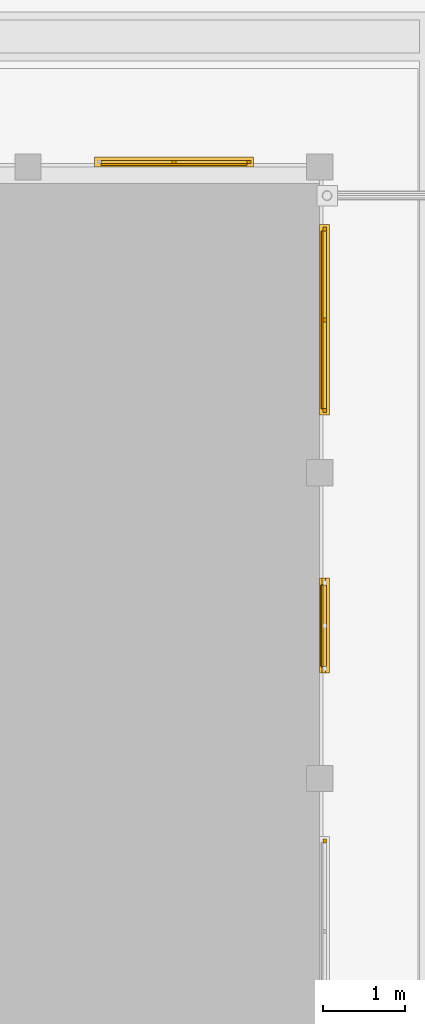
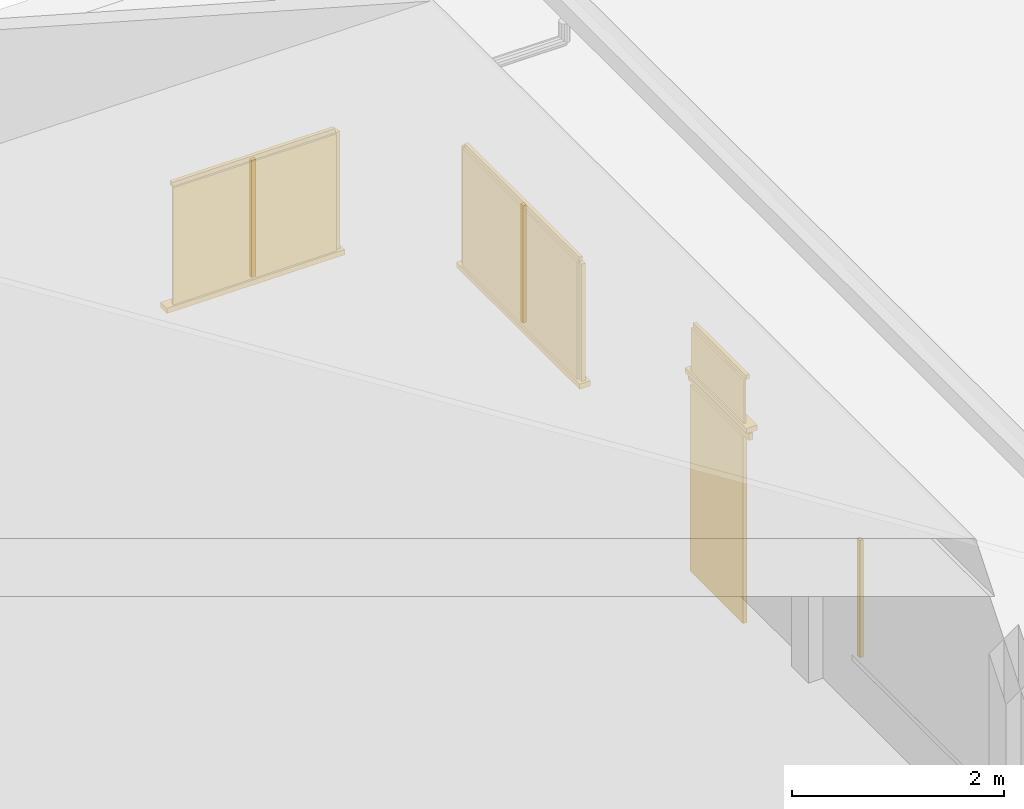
# One storey, part 51 of 177: 15 windows, 2 doors.
"""IFC4 building model written with IfcOpenShell, lengths in metres."""

import ifcopenshell
import ifcopenshell.guid

model = None  # the IFC model being written
_history = None  # IfcOwnerHistory: only IFC2X3 demands one
_inside = {}  # id of a spatial element -> (the spatial element, [elements in it])
_under = {}  # id of a project, library or spatial element -> (it, [spatial elements below it])
_declared = {}  # id of a project -> (the project, [libraries it declares])
_typed = {}  # id of a type object -> (the type object, [elements of that type])
_made_of = {}  # id of a material, layer set ... -> (it, [elements and type objects made of it])


def new_model(schema):
    """Start an empty IFC model of exactly this schema.

    Asked for "IFC4X3", IfcOpenShell would pick the latest addendum, in which some entities
    have other attributes; the version numbers below select the first issue.
    IFC2X3 requires an IfcOwnerHistory on every rooted entity: one is made here for all.
    """
    global model, _history
    if schema == "IFC4X3":
        model = ifcopenshell.file(schema_version=(4, 3, 0, 0))
    else:
        model = ifcopenshell.file(schema=schema)
    _inside.clear()
    _under.clear()
    _declared.clear()
    _typed.clear()
    _made_of.clear()
    _history = None
    if model.schema == "IFC2X3":
        org = make("IfcOrganization", Name="unknown")
        user = make(
            "IfcPersonAndOrganization",
            ThePerson=make("IfcPerson", FamilyName="unknown"),
            TheOrganization=org,
        )
        app = make(
            "IfcApplication",
            ApplicationDeveloper=org,
            Version="unknown",
            ApplicationFullName="unknown",
            ApplicationIdentifier="unknown",
        )
        _history = make(
            "IfcOwnerHistory",
            OwningUser=user,
            OwningApplication=app,
            ChangeAction="ADDED",
            CreationDate=0,
        )
    return model


def make(cls, **values):
    """One entity of the class cls with the attributes given. An attribute that is None is left unset."""
    return model.create_entity(
        cls, **{name: value for name, value in values.items() if value is not None}
    )


def rooted(cls, **values):
    """An entity with a GlobalId (a new one), such as an element, a storey or a relation."""
    return make(cls, GlobalId=ifcopenshell.guid.new(), OwnerHistory=_history, **values)


def si_unit(unit_type, name, prefix=None):
    """IfcSIUnit, for example si_unit("LENGTHUNIT", "METRE", prefix="MILLI")."""
    return make("IfcSIUnit", UnitType=unit_type, Prefix=prefix, Name=name)


def assignment(units):
    """IfcUnitAssignment: the units of a project."""
    return None if units is None else make("IfcUnitAssignment", Units=units)


def point(xyz):
    """IfcCartesianPoint."""
    return None if xyz is None else make("IfcCartesianPoint", Coordinates=xyz)


def direction(xyz):
    """IfcDirection."""
    return None if xyz is None else make("IfcDirection", DirectionRatios=xyz)


def frame(location, z_axis=None, x_axis=None):
    """IfcAxis2Placement3D, a coordinate frame: its origin and axes. An axis left out is left unset."""
    return make(
        "IfcAxis2Placement3D",
        Location=point(location),
        Axis=direction(z_axis),
        RefDirection=direction(x_axis),
    )


def origin():
    """The frame at (0, 0, 0) with its axes left unset."""
    return frame((0.0, 0.0, 0.0))


def origin_with_axes():
    """The frame at (0, 0, 0) with the z axis (0, 0, 1) and the x axis (1, 0, 0) written out."""
    return frame((0.0, 0.0, 0.0), z_axis=(0.0, 0.0, 1.0), x_axis=(1.0, 0.0, 0.0))


def place(relative_to, where):
    """IfcLocalPlacement: puts the frame where relative to a parent placement (None: the world)."""
    return make(
        "IfcLocalPlacement", PlacementRelTo=relative_to, RelativePlacement=where
    )


def context(
    kind, dimensions, precision=None, world=None, true_north=None, identifier=None
):
    """IfcGeometricRepresentationContext, for example the 3D "Model" context."""
    return make(
        "IfcGeometricRepresentationContext",
        ContextIdentifier=identifier,
        ContextType=kind,
        CoordinateSpaceDimension=dimensions,
        Precision=precision,
        WorldCoordinateSystem=world,
        TrueNorth=true_north,
    )


def subcontext(parent, identifier, kind, view, scale=None):
    """IfcGeometricRepresentationSubContext, for example "Body" below "Model"."""
    return make(
        "IfcGeometricRepresentationSubContext",
        ContextIdentifier=identifier,
        ContextType=kind,
        ParentContext=parent,
        TargetScale=scale,
        TargetView=view,
    )


def project(units=None, contexts=None):
    """IfcProject with its units and contexts."""
    return rooted(
        "IfcProject",
        Name="project",
        RepresentationContexts=contexts,
        UnitsInContext=assignment(units),
    )


def spatial(cls, under=None, at=None, **own):
    """A site, building, storey or space (cls), placed at a placement, below another one or the project."""
    s = rooted(cls, ObjectPlacement=at, **own)
    if under is not None:
        _under.setdefault(under.id(), (under, []))[1].append(s)
    return s


def point_list(points):
    """IfcCartesianPointList2D or 3D."""
    cls = (
        "IfcCartesianPointList2D" if len(points[0]) == 2 else "IfcCartesianPointList3D"
    )
    return make(cls, CoordList=points)


def triangles(points, corners, closed=None, point_numbers=None):
    """IfcTriangulatedFaceSet: each triangle names its three corners, points numbered from 1."""
    return make(
        "IfcTriangulatedFaceSet",
        Coordinates=point_list(points),
        Closed=closed,
        CoordIndex=corners,
        PnIndex=point_numbers,
    )


def shape(context_of_items, identifier, shape_type, items):
    """IfcShapeRepresentation: the items that make up one representation, for example the "Body"."""
    return make(
        "IfcShapeRepresentation",
        ContextOfItems=context_of_items,
        RepresentationIdentifier=identifier,
        RepresentationType=shape_type,
        Items=items,
    )


def made_of(thing, what):
    """Note that an element or type object is made of a material, layer set ...; save() writes the relation."""
    if what is not None:
        _made_of.setdefault(what.id(), (what, []))[1].append(thing)
    return thing


def element(
    cls,
    number,
    at=None,
    inside=None,
    cuts=None,
    type_object=None,
    material=None,
    context=None,
    identifier="Body",
    shape_type=None,
    held_by="IfcProductDefinitionShape",
    body=None,
    shapes=None,
    **own,
):
    """One element of the class cls, such as IfcWall. Its Tag is "e" and its number.

    at: its placement. inside: the storey or other place that contains it. cuts: it is an
    opening in that element (IfcRelVoidsElement). A single representation is given by context,
    identifier, shape_type and body (its items); several are given by shapes. held_by: the class
    of the entity that holds the representations. save() writes the other relations.
    """
    e = rooted(cls, Tag="e%d" % number, ObjectPlacement=at, **own)
    if body is not None:
        shapes = [shape(context, identifier, shape_type, body)]
    if shapes is not None:
        e.Representation = make(held_by, Representations=shapes)
    if inside is not None:
        _inside.setdefault(inside.id(), (inside, []))[1].append(e)
    if cuts is not None:
        rooted(
            "IfcRelVoidsElement", RelatingBuildingElement=cuts, RelatedOpeningElement=e
        )
    if type_object is not None:
        _typed.setdefault(type_object.id(), (type_object, []))[1].append(e)
    return made_of(e, material)


def aggregate(whole, parts):
    """IfcRelAggregates: a whole, such as a stair, and the parts it consists of."""
    return rooted("IfcRelAggregates", RelatingObject=whole, RelatedObjects=parts)


def save(model, path):
    """Write the relations noted so far, then the file.

    IfcRelAggregates (storeys below a building ...), IfcRelContainedInSpatialStructure (elements
    in a storey), IfcRelDefinesByType, IfcRelAssociatesMaterial and IfcRelDeclares: one each for
    every whole, place, type object, material and project.
    """
    for whole, parts in _under.values():
        aggregate(whole, parts)
    for where, things in _inside.values():
        rooted(
            "IfcRelContainedInSpatialStructure",
            RelatedElements=things,
            RelatingStructure=where,
        )
    for kind, things in _typed.values():
        rooted("IfcRelDefinesByType", RelatedObjects=things, RelatingType=kind)
    for what, things in _made_of.values():
        rooted("IfcRelAssociatesMaterial", RelatedObjects=things, RelatingMaterial=what)
    for by, libraries in _declared.values():
        rooted("IfcRelDeclares", RelatingContext=by, RelatedDefinitions=libraries)
    model.write(path)


model = new_model("IFC4")

# Units and contexts
model_context = context("Model", 3, precision=1e-05, world=origin_with_axes())
body_context = subcontext(model_context, "Body", "Model", "MODEL_VIEW")
ifc_project = project(units=[si_unit("LENGTHUNIT", "METRE"), si_unit("AREAUNIT", "SQUARE_METRE"), si_unit("VOLUMEUNIT", "CUBIC_METRE"), si_unit("PLANEANGLEUNIT", "RADIAN")], contexts=[model_context])

# Site, building, storey
site_placement = place(None, origin_with_axes())
site = spatial("IfcSite", under=ifc_project, at=site_placement, Name="Predio Los Mangos - Morales, San Martín", CompositionType="ELEMENT")
building_placement = place(site_placement, origin())
building = spatial("IfcBuilding", under=site, at=building_placement, Name="Hogar de Refugio Temporal", CompositionType="ELEMENT")
storey_placement = place(building_placement, origin())
storey = spatial("IfcBuildingStorey", under=building, at=storey_placement, Name="NIVEL 1 (NPT +0.00)", CompositionType="ELEMENT", Elevation=0.0)

# Windows
window_1_placement = place(storey_placement, origin())
element("IfcWindow", 1, at=window_1_placement, inside=storey, Name="E-01_vg4_vid", ObjectType="Ventana", PredefinedType="WINDOW", context=body_context, shape_type="Tessellation", body=[
    triangles([(28.93, 48.72, 1.05), (30.71, 48.72, 1.05), (30.71, 48.74, 1.05), (28.93, 48.74, 1.05), (28.93, 48.72, 2.4), (30.71, 48.72, 2.4), (30.71, 48.74, 2.4), (28.93, 48.74, 2.4)], [[1, 4, 3], [1, 3, 2], [5, 6, 7], [5, 7, 8], [1, 2, 6], [1, 6, 5], [2, 3, 7], [2, 7, 6], [3, 4, 8], [3, 8, 7], [4, 1, 5], [4, 5, 8]]),
])
window_2_placement = place(storey_placement, origin())
element("IfcWindow", 2, at=window_2_placement, inside=storey, Name="E-01_vg4_m", ObjectType="Ventana", PredefinedType="WINDOW", context=body_context, shape_type="Tessellation", body=[
    triangles([(30.71, 48.74, 1.05), (30.76, 48.74, 1.05), (30.76, 48.78, 1.05), (30.71, 48.78, 1.05), (30.71, 48.74, 2.4), (30.76, 48.74, 2.4), (30.76, 48.78, 2.4), (30.71, 48.78, 2.4)], [[1, 4, 3], [1, 3, 2], [5, 6, 7], [5, 7, 8], [1, 2, 6], [1, 6, 5], [2, 3, 7], [2, 7, 6], [3, 4, 8], [3, 8, 7], [4, 1, 5], [4, 5, 8]]),
])
window_3_placement = place(storey_placement, origin())
element("IfcWindow", 3, at=window_3_placement, inside=storey, Name="E-01_vg4_m", ObjectType="Ventana", PredefinedType="WINDOW", context=body_context, shape_type="Tessellation", body=[
    triangles([(28.93, 48.74, 2.4), (30.71, 48.74, 2.4), (30.71, 48.78, 2.4), (28.93, 48.78, 2.4), (28.93, 48.74, 2.45), (30.71, 48.74, 2.45), (30.71, 48.78, 2.45), (28.93, 48.78, 2.45)], [[1, 4, 3], [1, 3, 2], [5, 6, 7], [5, 7, 8], [1, 2, 6], [1, 6, 5], [2, 3, 7], [2, 7, 6], [3, 4, 8], [3, 8, 7], [4, 1, 5], [4, 5, 8]]),
])
window_4_placement = place(storey_placement, origin())
element("IfcWindow", 4, at=window_4_placement, inside=storey, Name="E-01_vg4_m", ObjectType="Ventana", PredefinedType="WINDOW", context=body_context, shape_type="Tessellation", body=[
    triangles([(29.795, 48.74, 1.05), (29.845, 48.74, 1.05), (29.845, 48.78, 1.05), (29.795, 48.78, 1.05), (29.795, 48.74, 2.4), (29.845, 48.74, 2.4), (29.845, 48.78, 2.4), (29.795, 48.78, 2.4)], [[1, 4, 3], [1, 3, 2], [5, 6, 7], [5, 7, 8], [1, 2, 6], [1, 6, 5], [2, 3, 7], [2, 7, 6], [3, 4, 8], [3, 8, 7], [4, 1, 5], [4, 5, 8]]),
])
window_5_placement = place(storey_placement, origin())
element("IfcWindow", 5, at=window_5_placement, inside=storey, Name="E-01_vg4_alf", ObjectType="Ventana", PredefinedType="WINDOW", context=body_context, shape_type="Tessellation", body=[
    triangles([(28.85, 48.7, 0.99), (30.79, 48.7, 0.99), (30.79, 48.82, 0.99), (28.85, 48.82, 0.99), (28.85, 48.7, 1.05), (30.79, 48.7, 1.05), (30.79, 48.82, 1.05), (28.85, 48.82, 1.05)], [[1, 4, 3], [1, 3, 2], [5, 6, 7], [5, 7, 8], [1, 2, 6], [1, 6, 5], [2, 3, 7], [2, 7, 6], [3, 4, 8], [3, 8, 7], [4, 1, 5], [4, 5, 8]]),
])
window_6_placement = place(storey_placement, origin())
element("IfcWindow", 6, at=window_6_placement, inside=storey, Name="E-01_v3_m", ObjectType="Ventana", PredefinedType="WINDOW", context=body_context, shape_type="Tessellation", body=[
    triangles([(31.64, 40.4493, 1.05), (31.68, 40.4493, 1.05), (31.68, 40.4993, 1.05), (31.64, 40.4993, 1.05), (31.64, 40.4493, 2.4), (31.68, 40.4493, 2.4), (31.68, 40.4993, 2.4), (31.64, 40.4993, 2.4)], [[1, 4, 3], [1, 3, 2], [5, 6, 7], [5, 7, 8], [1, 2, 6], [1, 6, 5], [2, 3, 7], [2, 7, 6], [3, 4, 8], [3, 8, 7], [4, 1, 5], [4, 5, 8]]),
])

# Doors
door_1_placement = place(storey_placement, origin())
element("IfcDoor", 7, at=door_1_placement, inside=storey, Name="E-01_p4", ObjectType="Puerta", PredefinedType="DOOR", context=body_context, shape_type="Tessellation", body=[
    triangles([(31.61, 42.6, 0.15), (31.65, 42.6, 0.15), (31.65, 43.6, 0.15), (31.61, 43.6, 0.15), (31.61, 42.6, 2.3), (31.65, 42.6, 2.3), (31.65, 43.6, 2.3), (31.61, 43.6, 2.3)], [[1, 4, 3], [1, 3, 2], [5, 6, 7], [5, 7, 8], [1, 2, 6], [1, 6, 5], [2, 3, 7], [2, 7, 6], [3, 4, 8], [3, 8, 7], [4, 1, 5], [4, 5, 8]]),
])
door_2_placement = place(storey_placement, origin())
element("IfcDoor", 8, at=door_2_placement, inside=storey, Name="E-01_p4_marco", ObjectType="Puerta", PredefinedType="DOOR", context=body_context, shape_type="Tessellation", body=[
    triangles([(31.63, 42.52, 2.3), (31.67, 42.52, 2.3), (31.67, 43.68, 2.3), (31.63, 43.68, 2.3), (31.63, 42.52, 2.38), (31.67, 42.52, 2.38), (31.67, 43.68, 2.38), (31.63, 43.68, 2.38)], [[1, 4, 3], [1, 3, 2], [5, 6, 7], [5, 7, 8], [1, 2, 6], [1, 6, 5], [2, 3, 7], [2, 7, 6], [3, 4, 8], [3, 8, 7], [4, 1, 5], [4, 5, 8]]),
])

# Windows
window_7_placement = place(storey_placement, origin())
element("IfcWindow", 9, at=window_7_placement, inside=storey, Name="E-01_vt4_vid", ObjectType="Ventana", PredefinedType="WINDOW", context=body_context, shape_type="Tessellation", body=[
    triangles([(31.62, 42.6, 2.45), (31.64, 42.6, 2.45), (31.64, 43.6, 2.45), (31.62, 43.6, 2.45), (31.62, 42.6, 2.95), (31.64, 42.6, 2.95), (31.64, 43.6, 2.95), (31.62, 43.6, 2.95)], [[1, 4, 3], [1, 3, 2], [5, 6, 7], [5, 7, 8], [1, 2, 6], [1, 6, 5], [2, 3, 7], [2, 7, 6], [3, 4, 8], [3, 8, 7], [4, 1, 5], [4, 5, 8]]),
])
window_8_placement = place(storey_placement, origin())
element("IfcWindow", 10, at=window_8_placement, inside=storey, Name="E-01_vt4_m", ObjectType="Ventana", PredefinedType="WINDOW", context=body_context, shape_type="Tessellation", body=[
    triangles([(31.64, 42.6, 2.95), (31.68, 42.6, 2.95), (31.68, 43.6, 2.95), (31.64, 43.6, 2.95), (31.64, 42.6, 3.0), (31.68, 42.6, 3.0), (31.68, 43.6, 3.0), (31.64, 43.6, 3.0)], [[1, 4, 3], [1, 3, 2], [5, 6, 7], [5, 7, 8], [1, 2, 6], [1, 6, 5], [2, 3, 7], [2, 7, 6], [3, 4, 8], [3, 8, 7], [4, 1, 5], [4, 5, 8]]),
])
window_9_placement = place(storey_placement, origin())
element("IfcWindow", 11, at=window_9_placement, inside=storey, Name="E-01_vt4_alf", ObjectType="Ventana", PredefinedType="WINDOW", context=body_context, shape_type="Tessellation", body=[
    triangles([(31.6, 42.52, 2.39), (31.72, 42.52, 2.39), (31.72, 43.68, 2.39), (31.6, 43.68, 2.39), (31.6, 42.52, 2.45), (31.72, 42.52, 2.45), (31.72, 43.68, 2.45), (31.6, 43.68, 2.45)], [[1, 4, 3], [1, 3, 2], [5, 6, 7], [5, 7, 8], [1, 2, 6], [1, 6, 5], [2, 3, 7], [2, 7, 6], [3, 4, 8], [3, 8, 7], [4, 1, 5], [4, 5, 8]]),
])
window_10_placement = place(storey_placement, origin())
element("IfcWindow", 12, at=window_10_placement, inside=storey, Name="E-01_v5_vid", ObjectType="Ventana", PredefinedType="WINDOW", context=body_context, shape_type="Tessellation", body=[
    triangles([(31.62, 45.7507, 1.05), (31.64, 45.7507, 1.05), (31.64, 47.916, 1.05), (31.62, 47.916, 1.05), (31.62, 45.7507, 2.4), (31.64, 45.7507, 2.4), (31.64, 47.916, 2.4), (31.62, 47.916, 2.4)], [[1, 4, 3], [1, 3, 2], [5, 6, 7], [5, 7, 8], [1, 2, 6], [1, 6, 5], [2, 3, 7], [2, 7, 6], [3, 4, 8], [3, 8, 7], [4, 1, 5], [4, 5, 8]]),
])
window_11_placement = place(storey_placement, origin())
element("IfcWindow", 13, at=window_11_placement, inside=storey, Name="E-01_v5_m", ObjectType="Ventana", PredefinedType="WINDOW", context=body_context, shape_type="Tessellation", body=[
    triangles([(31.64, 45.7007, 1.05), (31.68, 45.7007, 1.05), (31.68, 45.7507, 1.05), (31.64, 45.7507, 1.05), (31.64, 45.7007, 2.4), (31.68, 45.7007, 2.4), (31.68, 45.7507, 2.4), (31.64, 45.7507, 2.4)], [[1, 4, 3], [1, 3, 2], [5, 6, 7], [5, 7, 8], [1, 2, 6], [1, 6, 5], [2, 3, 7], [2, 7, 6], [3, 4, 8], [3, 8, 7], [4, 1, 5], [4, 5, 8]]),
])
window_12_placement = place(storey_placement, origin())
element("IfcWindow", 14, at=window_12_placement, inside=storey, Name="E-01_v5_m", ObjectType="Ventana", PredefinedType="WINDOW", context=body_context, shape_type="Tessellation", body=[
    triangles([(31.64, 47.916, 1.05), (31.68, 47.916, 1.05), (31.68, 47.966, 1.05), (31.64, 47.966, 1.05), (31.64, 47.916, 2.4), (31.68, 47.916, 2.4), (31.68, 47.966, 2.4), (31.64, 47.966, 2.4)], [[1, 4, 3], [1, 3, 2], [5, 6, 7], [5, 7, 8], [1, 2, 6], [1, 6, 5], [2, 3, 7], [2, 7, 6], [3, 4, 8], [3, 8, 7], [4, 1, 5], [4, 5, 8]]),
])
window_13_placement = place(storey_placement, origin())
element("IfcWindow", 15, at=window_13_placement, inside=storey, Name="E-01_v5_m", ObjectType="Ventana", PredefinedType="WINDOW", context=body_context, shape_type="Tessellation", body=[
    triangles([(31.64, 45.7507, 2.4), (31.68, 45.7507, 2.4), (31.68, 47.916, 2.4), (31.64, 47.916, 2.4), (31.64, 45.7507, 2.45), (31.68, 45.7507, 2.45), (31.68, 47.916, 2.45), (31.64, 47.916, 2.45)], [[1, 4, 3], [1, 3, 2], [5, 6, 7], [5, 7, 8], [1, 2, 6], [1, 6, 5], [2, 3, 7], [2, 7, 6], [3, 4, 8], [3, 8, 7], [4, 1, 5], [4, 5, 8]]),
])
window_14_placement = place(storey_placement, origin())
element("IfcWindow", 16, at=window_14_placement, inside=storey, Name="E-01_v5_m", ObjectType="Ventana", PredefinedType="WINDOW", context=body_context, shape_type="Tessellation", body=[
    triangles([(31.64, 46.8083, 1.05), (31.68, 46.8083, 1.05), (31.68, 46.8583, 1.05), (31.64, 46.8583, 1.05), (31.64, 46.8083, 2.4), (31.68, 46.8083, 2.4), (31.68, 46.8583, 2.4), (31.64, 46.8583, 2.4)], [[1, 4, 3], [1, 3, 2], [5, 6, 7], [5, 7, 8], [1, 2, 6], [1, 6, 5], [2, 3, 7], [2, 7, 6], [3, 4, 8], [3, 8, 7], [4, 1, 5], [4, 5, 8]]),
])
window_15_placement = place(storey_placement, origin())
element("IfcWindow", 17, at=window_15_placement, inside=storey, Name="E-01_v5_alf", ObjectType="Ventana", PredefinedType="WINDOW", context=body_context, shape_type="Tessellation", body=[
    triangles([(31.6, 45.6707, 0.99), (31.72, 45.6707, 0.99), (31.72, 47.996, 0.99), (31.6, 47.996, 0.99), (31.6, 45.6707, 1.05), (31.72, 45.6707, 1.05), (31.72, 47.996, 1.05), (31.6, 47.996, 1.05)], [[1, 4, 3], [1, 3, 2], [5, 6, 7], [5, 7, 8], [1, 2, 6], [1, 6, 5], [2, 3, 7], [2, 7, 6], [3, 4, 8], [3, 8, 7], [4, 1, 5], [4, 5, 8]]),
])

save(model, "model.ifc")
